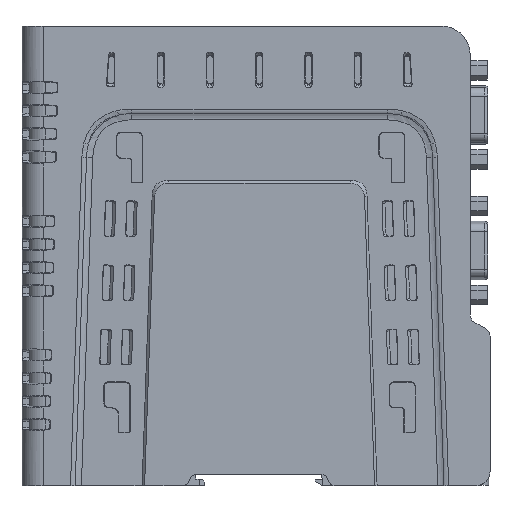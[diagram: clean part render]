
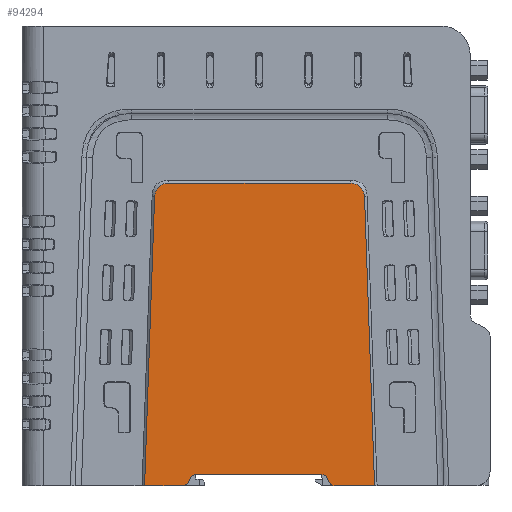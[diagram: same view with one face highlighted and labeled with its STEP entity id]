
A CAD part, left-side view. The second image highlights one B-rep face of the part: STEP entity #94294.
In plain terms, the highlighted planar face has unit normal (-1, 0, 0).
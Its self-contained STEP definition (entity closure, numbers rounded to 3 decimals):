
#13472=DIRECTION('',(0.,-1.,0.));
#13473=VECTOR('',#13472,34.784);
#13474=CARTESIAN_POINT('',(-14.6,82.226,3.2));
#13475=LINE('',#13474,#13473);
#14255=DIRECTION('',(0.,1.,0.));
#14256=VECTOR('',#14255,10.603);
#14257=CARTESIAN_POINT('',(-14.6,86.266,0.));
#14258=LINE('',#14257,#14256);
#14259=DIRECTION('',(0.,-0.035,0.999));
#14260=VECTOR('',#14259,80.853);
#14261=CARTESIAN_POINT('',(-14.6,96.869,0.));
#14262=LINE('',#14261,#14260);
#14263=CARTESIAN_POINT('',(-14.6,89.832,84.9));
#14264=CARTESIAN_POINT('',(-14.6,90.515,84.9));
#14265=CARTESIAN_POINT('',(-14.6,91.671,84.683));
#14266=CARTESIAN_POINT('',(-14.6,92.944,83.879));
#14267=CARTESIAN_POINT('',(-14.6,93.791,82.635));
#14268=CARTESIAN_POINT('',(-14.6,94.049,81.487));
#14269=CARTESIAN_POINT('',(-14.6,94.072,80.804));
#14271=DIRECTION('',(0.,1.,0.));
#14272=VECTOR('',#14271,50.414);
#14273=CARTESIAN_POINT('',(-14.6,39.418,84.9));
#14274=LINE('',#14273,#14272);
#14275=CARTESIAN_POINT('',(-14.6,35.178,80.804));
#14276=CARTESIAN_POINT('',(-14.6,35.201,81.487));
#14277=CARTESIAN_POINT('',(-14.6,35.459,82.635));
#14278=CARTESIAN_POINT('',(-14.6,36.306,83.879));
#14279=CARTESIAN_POINT('',(-14.6,37.579,84.683));
#14280=CARTESIAN_POINT('',(-14.6,38.735,84.9));
#14281=CARTESIAN_POINT('',(-14.6,39.418,84.9));
#14283=DIRECTION('',(0.,0.035,0.999));
#14284=VECTOR('',#14283,80.853);
#14285=CARTESIAN_POINT('',(-14.6,32.381,0.));
#14286=LINE('',#14285,#14284);
#14287=DIRECTION('',(0.,1.,0.));
#14288=VECTOR('',#14287,11.021);
#14289=CARTESIAN_POINT('',(-14.6,32.381,0.));
#14290=LINE('',#14289,#14288);
#14291=CARTESIAN_POINT('',(-14.6,43.401,2.));
#14292=DIRECTION('',(-1.,0.,0.));
#14293=DIRECTION('',(0.,0.906,-0.423));
#14294=AXIS2_PLACEMENT_3D('',#14291,#14292,#14293);
#14296=DIRECTION('',(0.,0.423,0.906));
#14297=VECTOR('',#14296,0.983);
#14298=CARTESIAN_POINT('',(-14.6,45.214,1.155));
#14299=LINE('',#14298,#14297);
#14300=DIRECTION('',(0.,-0.423,0.906));
#14301=VECTOR('',#14300,0.983);
#14302=CARTESIAN_POINT('',(-14.6,84.454,1.155));
#14303=LINE('',#14302,#14301);
#14304=CARTESIAN_POINT('',(-14.6,86.266,2.));
#14305=DIRECTION('',(-1.,0.,0.));
#14306=DIRECTION('',(0.,0.,-1.));
#14307=AXIS2_PLACEMENT_3D('',#14304,#14305,#14306);
#33872=CARTESIAN_POINT('',(-14.6,47.442,1.2));
#33873=DIRECTION('',(1.,0.,0.));
#33874=DIRECTION('',(0.,0.,1.));
#33875=AXIS2_PLACEMENT_3D('',#33872,#33873,#33874);
#33882=CARTESIAN_POINT('',(-14.6,82.226,1.2));
#33883=DIRECTION('',(1.,0.,0.));
#33884=DIRECTION('',(0.,0.906,0.423));
#33885=AXIS2_PLACEMENT_3D('',#33882,#33883,#33884);
#63887=CARTESIAN_POINT('',(-14.6,32.381,0.));
#63889=VERTEX_POINT('',#63887);
#63891=CARTESIAN_POINT('',(-14.6,96.869,0.));
#63893=VERTEX_POINT('',#63891);
#63894=CARTESIAN_POINT('',(-14.6,89.832,84.9));
#63896=VERTEX_POINT('',#63894);
#63898=VERTEX_POINT('',#14269);
#63901=CARTESIAN_POINT('',(-14.6,35.178,80.804));
#63903=VERTEX_POINT('',#63901);
#63905=VERTEX_POINT('',#14281);
#64683=CARTESIAN_POINT('',(-14.6,86.266,0.));
#64684=VERTEX_POINT('',#64683);
#64742=CARTESIAN_POINT('',(-14.6,82.226,3.2));
#64744=VERTEX_POINT('',#64742);
#64746=CARTESIAN_POINT('',(-14.6,84.038,2.045));
#64748=VERTEX_POINT('',#64746);
#64758=CARTESIAN_POINT('',(-14.6,45.629,2.045));
#64760=VERTEX_POINT('',#64758);
#64762=CARTESIAN_POINT('',(-14.6,47.442,3.2));
#64764=VERTEX_POINT('',#64762);
#64769=CARTESIAN_POINT('',(-14.6,84.454,1.155));
#64770=VERTEX_POINT('',#64769);
#64785=CARTESIAN_POINT('',(-14.6,45.214,1.155));
#64786=VERTEX_POINT('',#64785);
#64787=CARTESIAN_POINT('',(-14.6,43.401,0.));
#64788=VERTEX_POINT('',#64787);
#94265=CARTESIAN_POINT('',(-14.6,0.,0.));
#94266=DIRECTION('',(1.,0.,0.));
#94267=DIRECTION('',(0.,0.,-1.));
#94268=AXIS2_PLACEMENT_3D('',#94265,#94266,#94267);
#94269=PLANE('',#94268);
#94270=ORIENTED_EDGE('',*,*,#85930,.T.);
#94272=ORIENTED_EDGE('',*,*,#94271,.T.);
#94274=ORIENTED_EDGE('',*,*,#94273,.F.);
#94276=ORIENTED_EDGE('',*,*,#94275,.F.);
#94278=ORIENTED_EDGE('',*,*,#94277,.F.);
#94280=ORIENTED_EDGE('',*,*,#94279,.F.);
#94281=ORIENTED_EDGE('',*,*,#93787,.T.);
#94283=ORIENTED_EDGE('',*,*,#94282,.F.);
#94284=ORIENTED_EDGE('',*,*,#93838,.T.);
#94286=ORIENTED_EDGE('',*,*,#94285,.F.);
#94287=ORIENTED_EDGE('',*,*,#93876,.F.);
#94289=ORIENTED_EDGE('',*,*,#94288,.F.);
#94290=ORIENTED_EDGE('',*,*,#93917,.F.);
#94291=ORIENTED_EDGE('',*,*,#93942,.F.);
#94292=EDGE_LOOP('',(#94270,#94272,#94274,#94276,#94278,#94280,#94281,#94283,
#94284,#94286,#94287,#94289,#94290,#94291));
#94293=FACE_OUTER_BOUND('',#94292,.F.);
#94294=ADVANCED_FACE('',(#94293),#94269,.F.);
#14270=B_SPLINE_CURVE_WITH_KNOTS('',3,(#14263,#14264,#14265,#14266,#14267,
#14268,#14269),.UNSPECIFIED.,.F.,.F.,(4,1,1,1,4),(0.,0.25,0.5,0.75,
1.),.UNSPECIFIED.);
#14282=B_SPLINE_CURVE_WITH_KNOTS('',3,(#14275,#14276,#14277,#14278,#14279,
#14280,#14281),.UNSPECIFIED.,.F.,.F.,(4,1,1,1,4),(0.,0.25,0.5,0.75,
1.),.UNSPECIFIED.);
#14295=CIRCLE('',#14294,2.);
#14308=CIRCLE('',#14307,2.);
#33876=CIRCLE('',#33875,2.);
#33886=CIRCLE('',#33885,2.);
#85930=EDGE_CURVE('',#64684,#63893,#14258,.T.);
#93787=EDGE_CURVE('',#63889,#64788,#14290,.T.);
#93838=EDGE_CURVE('',#64786,#64760,#14299,.T.);
#93876=EDGE_CURVE('',#64744,#64764,#13475,.T.);
#93917=EDGE_CURVE('',#64770,#64748,#14303,.T.);
#93942=EDGE_CURVE('',#64684,#64770,#14308,.T.);
#94271=EDGE_CURVE('',#63893,#63898,#14262,.T.);
#94273=EDGE_CURVE('',#63896,#63898,#14270,.T.);
#94275=EDGE_CURVE('',#63905,#63896,#14274,.T.);
#94277=EDGE_CURVE('',#63903,#63905,#14282,.T.);
#94279=EDGE_CURVE('',#63889,#63903,#14286,.T.);
#94282=EDGE_CURVE('',#64786,#64788,#14295,.T.);
#94285=EDGE_CURVE('',#64764,#64760,#33876,.T.);
#94288=EDGE_CURVE('',#64748,#64744,#33886,.T.);
